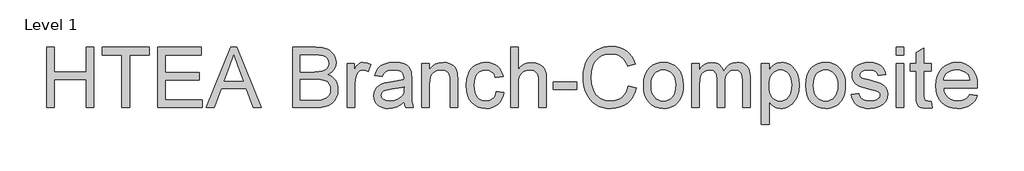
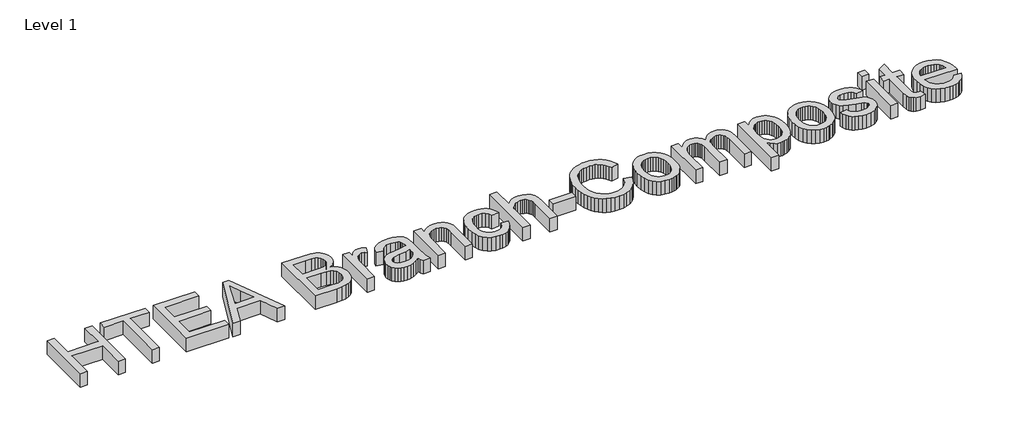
# One storey, part 6 of 29: 1 proxy.
"""IFC4 building model written with IfcOpenShell, lengths in millimetres."""

from ifc_helpers import new_model, si_unit, origin, origin_with_axes, place, context, project, spatial, polyline, outline, extrude, element, save

model = new_model("IFC4")

# Units and contexts
model_context = context("Model", 3, world=origin())
ifc_project = project(units=[si_unit("LENGTHUNIT", "METRE", prefix="MILLI")], contexts=[model_context])

# Site, building, storey
site = spatial("IfcSite", under=ifc_project)
building = spatial("IfcBuilding", under=site)
storey = spatial("IfcBuildingStorey", under=building, Name="Level 1", Elevation=0.0)

# Proxy
placement = place(None, origin())
element("IfcBuildingElementProxy", 1, Name="600mm Arial", ObjectType="600mm Arial", at=placement, inside=storey, context=model_context, shape_type="SweptSolid", body=[
    extrude(outline(polyline([(14722.2890563, -50096.4194431), (14722.2890563, -49493.6815822), (14797.6312889, -49493.6815822), (14797.6312889, -49738.5438382), (15117.8357775, -49738.5438382), (15117.8357775, -49493.6815822), (15193.1780101, -49493.6815822), (15193.1780101, -50096.4194431), (15117.8357775, -50096.4194431), (15117.8357775, -49813.8860708), (14797.6312889, -49813.8860708), (14797.6312889, -50096.4194431), (14722.2890563, -50096.4194431)])), origin_with_axes(), (0.0, 0.0, 1.0), 150.0),
    extrude(outline(polyline([(15475.7113824, -50096.4194431), (15475.7113824, -49569.0238148), (15277.9380218, -49569.0238148), (15277.9380218, -49493.6815822), (15748.8269757, -49493.6815822), (15748.8269757, -49569.0238148), (15551.053615, -49569.0238148), (15551.053615, -50096.4194431), (15475.7113824, -50096.4194431)])), origin_with_axes(), (0.0, 0.0, 1.0), 150.0),
    extrude(outline(polyline([(15833.5869873, -50096.4194431), (15833.5869873, -49493.6815822), (16266.8048249, -49493.6815822), (16266.8048249, -49569.0238148), (15908.92922, -49569.0238148), (15908.92922, -49747.9616173), (16247.9692667, -49747.9616173), (16247.9692667, -49823.3038499), (15908.92922, -49823.3038499), (15908.92922, -50021.0772105), (16276.2226039, -50021.0772105), (16276.2226039, -50096.4194431), (15833.5869873, -50096.4194431)])), origin_with_axes(), (0.0, 0.0, 1.0), 150.0),
    extrude(outline(polyline([(16319.0440682, -50096.4194431), (16559.638893, -49493.6815822), (16623.797513, -49493.6815822), (16864.3923378, -50096.4194431), (16784.7826741, -50096.4194431), (16715.7680118, -49908.0638616), (16467.5212414, -49908.0638616), (16398.6537319, -50096.4194431), (16319.0440682, -50096.4194431)]), holes=[polyline([(16495.1859675, -49832.721629), (16688.2504385, -49832.721629), (16633.951056, -49684.5387613), (16591.718203, -49569.0238148), (16554.1942395, -49671.5893151), (16495.1859675, -49832.721629)])]), origin_with_axes(), (0.0, 0.0, 1.0), 150.0),
    extrude(outline(polyline([(17180.3293953, -50096.4194431), (17180.3293953, -49493.6815822), (17410.3292187, -49493.6815822), (17473.5865277, -49498.1145603), (17522.9746856, -49511.4134944), (17543.0518455, -49521.4704684), (17560.8297429, -49533.9094784), (17576.3083778, -49548.7305243), (17589.4877503, -49565.9336061), (17607.5323622, -49603.6047224), (17613.5472328, -49643.0416723), (17608.4888554, -49679.3332311), (17593.3137231, -49713.4542862), (17567.9114713, -49743.3079101), (17532.1717355, -49766.7971755), (17554.9114413, -49776.490866), (17574.864441, -49789.0908244), (17592.0307346, -49804.5970505), (17606.4103221, -49823.0095443), (17617.7732772, -49843.7672859), (17625.8896737, -49866.3092552), (17630.7595117, -49890.6354521), (17632.382791, -49916.7458767), (17627.9498129, -49958.7763946), (17614.6508788, -49997.753492), (17594.8036451, -50030.8996598), (17570.7257686, -50055.4373889), (17541.2400267, -50073.2060892), (17505.169197, -50086.0451709), (17461.3360573, -50093.8258751), (17408.5633851, -50096.4194431), (17180.3293953, -50096.4194431)]), holes=[polyline([(17255.6716279, -50021.0772105), (17410.1820659, -50021.0772105), (17466.1001291, -50018.1341546), (17492.0542039, -50011.6042491), (17513.4097537, -50001.7266176), (17530.7737839, -49987.5815549), (17544.7532997, -49968.249356), (17553.9687437, -49944.5945437), (17557.0405583, -49917.4816407), (17553.4353148, -49885.9909419), (17542.6195841, -49858.914827), (17523.7288437, -49837.7432182), (17495.8985707, -49823.9660375), (17456.480015, -49816.4060625), (17402.824426, -49813.8860708), (17255.6716279, -49813.8860708), (17255.6716279, -50021.0772105)]), polyline([(17255.6716279, -49738.5438382), (17393.2594941, -49738.5438382), (17441.3784591, -49736.9251574), (17473.6049218, -49732.0691151), (17501.7295004, -49720.9038966), (17521.944616, -49704.1836599), (17534.1399041, -49682.1659225), (17538.2050002, -49655.1082017), (17534.4158156, -49628.8414273), (17523.048262, -49605.9591672), (17504.617374, -49588.0984963), (17479.6381866, -49576.8964895), (17441.3048827, -49570.9919835), (17382.8116454, -49569.0238148), (17255.6716279, -49569.0238148), (17255.6716279, -49738.5438382)])]), origin_with_axes(), (0.0, 0.0, 1.0), 150.0),
    extrude(outline(polyline([(17726.5605817, -50096.4194431), (17726.5605817, -49653.7838265), (17792.4850353, -49653.7838265), (17792.4850353, -49719.2668217), (17816.8388233, -49681.3013998), (17839.279625, -49658.9341745), (17861.7940031, -49648.0080792), (17886.3685204, -49644.3660475), (17923.8924839, -49650.178583), (17962.0050586, -49667.6161896), (17936.8419302, -49735.1593239), (17910.3544265, -49723.571041), (17883.8669229, -49719.7082801), (17861.3709389, -49723.4238882), (17841.2661878, -49734.5707127), (17825.0241977, -49752.3026248), (17814.1164966, -49775.7734961), (17804.9562349, -49817.8591964), (17801.9028143, -49863.7708694), (17801.9028143, -50096.4194431), (17726.5605817, -50096.4194431)])), origin_with_axes(), (0.0, 0.0, 1.0), 150.0),
    extrude(outline(polyline([(18291.6273263, -50039.9127687), (18255.6300731, -50070.7780681), (18218.5659621, -50090.9747896), (18179.5888647, -50102.1216141), (18137.8526523, -50105.8372222), (18104.3064129, -50103.6023391), (18074.8896489, -50096.8976897), (18049.6023602, -50085.7232741), (18028.444547, -50070.0790923), (18011.7381059, -50050.9584256), (17999.8049336, -50029.3545554), (17992.6450303, -50005.2674818), (17990.2583959, -49978.6972047), (17993.8636394, -49947.4640233), (18004.6793701, -49919.1003215), (18021.3628186, -49894.8201098), (18042.5712156, -49875.8373988), (18067.4952208, -49861.490001), (18095.3254937, -49851.1157288), (18160.5141832, -49839.7849633), (18237.548673, -49827.8655867), (18291.1858679, -49813.8860708), (18291.6273263, -49797.1106519), (18286.4401902, -49763.4862375), (18279.95627, -49751.033432), (18270.8787818, -49741.4868942), (18255.1886147, -49731.9587505), (18236.077145, -49725.1529336), (18187.5902981, -49719.7082801), (18142.7086947, -49723.3319177), (18111.3651487, -49734.2028307), (18089.9912048, -49754.3075817), (18075.0184076, -49785.6327336), (17999.6761749, -49776.2149545), (18012.7543799, -49735.0121711), (18032.2705197, -49702.6385555), (18060.0456103, -49677.8800972), (18097.9006677, -49659.5227857), (18144.1986167, -49648.155232), (18197.3023827, -49644.3660475), (18248.235645, -49647.7137736), (18288.610694, -49657.7569521), (18319.0529291, -49672.858508), (18340.1877497, -49691.3813664), (18354.2040537, -49714.2820206), (18363.290739, -49742.5169638), (18366.9695589, -49808.4414173), (18366.9695589, -49902.1777497), (18370.7955317, -50033.0701636), (18376.4609144, -50065.425385), (18385.8051171, -50096.4194431), (18310.4628845, -50096.4194431), (18298.396355, -50070.2262451), (18291.6273263, -50039.9127687)]), holes=[polyline([(18291.6273263, -49889.2283035), (18241.0067638, -49901.7730795), (18170.0791151, -49912.3312927), (18105.2583076, -49924.544975), (18088.3909181, -49932.8958963), (18075.9013243, -49944.4106027), (18068.1758024, -49958.2061775), (18065.6006285, -49973.3997039), (18071.2108289, -49995.8037175), (18088.0414302, -50014.161029), (18115.7245503, -50026.4114995), (18153.8923073, -50030.4949896), (18194.3593268, -50025.9884352), (18230.1174567, -50012.4687718), (18259.1065579, -49992.5479618), (18279.2664913, -49968.8379672), (18288.2060238, -49944.4106027), (18291.1858679, -49910.5654592), (18291.6273263, -49889.2283035)])]), origin_with_axes(), (0.0, 0.0, 1.0), 150.0),
    extrude(outline(polyline([(18470.5651288, -50096.4194431), (18470.5651288, -49653.7838265), (18545.9073614, -49653.7838265), (18545.9073614, -49715.5880017), (18572.0821653, -49684.4283967), (18603.5176818, -49662.171536), (18640.2139108, -49648.8174196), (18682.1708524, -49644.3660475), (18719.3085398, -49647.9528969), (18753.3192303, -49658.7134453), (18781.6829321, -49675.3049233), (18801.8796536, -49696.3845616), (18815.5832579, -49721.8971779), (18824.4676081, -49751.7875901), (18828.4407337, -49824.6282251), (18828.4407337, -50096.4194431), (18753.0985011, -50096.4194431), (18753.0985011, -49834.7817682), (18750.9279973, -49795.8230649), (18744.416486, -49768.1215506), (18732.4051388, -49748.274317), (18713.7351276, -49732.8784555), (18689.8044038, -49723.0008239), (18662.0109191, -49719.7082801), (18639.1332575, -49721.5568871), (18617.8834737, -49727.1027082), (18598.2615678, -49736.3457433), (18580.2675397, -49749.2859925), (18565.2349617, -49767.3949837), (18554.497406, -49792.1442449), (18548.0548725, -49823.5337762), (18545.9073614, -49861.5635774), (18545.9073614, -50096.4194431), (18470.5651288, -50096.4194431)])), origin_with_axes(), (0.0, 0.0, 1.0), 150.0),
    extrude(outline(polyline([(19214.5696758, -49936.3171988), (19289.9119084, -49945.7349779), (19281.717337, -49981.2861742), (19268.9058465, -50012.7446833), (19251.477437, -50040.1105052), (19229.4321084, -50063.38364), (19203.6987629, -50081.9570822), (19175.2063023, -50095.2238267), (19143.9547268, -50103.1838733), (19109.9440364, -50105.8372222), (19067.6881907, -50102.1354096), (19029.8009437, -50091.0299719), (18996.2822954, -50072.520909), (18967.1322459, -50046.608221), (18943.5372144, -50013.7793514), (18926.6836205, -49974.521744), (18916.5714641, -49928.8353988), (18913.2007454, -49876.7203156), (18918.9580986, -49809.673822), (18926.1547901, -49779.5028999), (18936.2301583, -49751.5668609), (18949.2531809, -49726.426725), (18965.2928359, -49704.6435124), (18984.3491232, -49686.2172229), (19006.4220429, -49671.1478567), (19030.5137151, -49659.4308152), (19055.6262598, -49651.0614998), (19081.759677, -49646.0399105), (19108.9139668, -49644.3660475), (19142.3406446, -49646.6653099), (19172.5759461, -49653.5630973), (19199.6198712, -49665.0594097), (19223.4724201, -49681.154247), (19243.7289225, -49701.4797272), (19259.9847081, -49725.6679684), (19272.2397771, -49753.7189705), (19280.4941293, -49785.6327336), (19205.1518967, -49795.0505127), (19191.4850806, -49762.1802564), (19170.2031072, -49738.6174146), (19142.4831989, -49724.4355637), (19109.502578, -49719.7082801), (19083.9025897, -49722.0351337), (19060.8133959, -49729.0156946), (19040.2349968, -49740.6499626), (19022.1673923, -49756.937938), (19007.4567111, -49778.2566996), (18996.9490816, -49804.9833266), (18990.6445039, -49837.1178188), (18988.542978, -49874.6601764), (18990.5985186, -49912.7681526), (18996.7651406, -49945.2751254), (19007.0428438, -49972.1810948), (19021.4316283, -49993.4860609), (19039.1405479, -50009.6774672), (19059.3786561, -50021.2427574), (19082.1459531, -50028.1819316), (19107.4424388, -50030.4949896), (19146.4563244, -50024.7192423), (19163.3283124, -50017.4995581), (19178.4436639, -50007.3920003), (19191.3793145, -49994.2862042), (19201.7122001, -49978.0718053), (19209.4423205, -49958.7488035), (19214.5696758, -49936.3171988)])), origin_with_axes(), (0.0, 0.0, 1.0), 150.0),
    extrude(outline(polyline([(19355.836362, -50096.4194431), (19355.836362, -49493.6815822), (19431.1785946, -49493.6815822), (19431.1785946, -49715.2936961), (19458.8525177, -49684.2628498), (19489.9293492, -49662.0979596), (19524.4090892, -49648.7990255), (19562.2917377, -49644.3660475), (19607.7987405, -49649.2036957), (19646.9045965, -49663.7166404), (19677.6963195, -49686.7644474), (19698.2609231, -49717.2066825), (19709.8492059, -49759.0348654), (19713.7119669, -49816.2405156), (19713.7119669, -50096.4194431), (19638.3697343, -50096.4194431), (19638.3697343, -49824.0396139), (19636.8706151, -49798.6005739), (19632.3732577, -49776.8771421), (19624.8776621, -49758.8693185), (19614.3838282, -49744.5771029), (19601.1400763, -49733.6969929), (19585.394727, -49725.9254858), (19567.14778, -49721.2625815), (19546.3992355, -49719.7082801), (19514.5590488, -49723.9021348), (19484.6686367, -49736.4836991), (19459.9101784, -49756.2389622), (19443.4658532, -49781.9539137), (19434.2504092, -49816.130151), (19431.1785946, -49861.2692718), (19431.1785946, -50096.4194431), (19355.836362, -50096.4194431)])), origin_with_axes(), (0.0, 0.0, 1.0), 150.0),
    extrude(outline(polyline([(19779.6364204, -49917.4816407), (19779.6364204, -49842.1394081), (20015.0808973, -49842.1394081), (20015.0808973, -49917.4816407), (19779.6364204, -49917.4816407)])), origin_with_axes(), (0.0, 0.0, 1.0), 150.0),
    extrude(outline(polyline([(20533.0587465, -49882.1649691), (20608.4009791, -49901.5891385), (20593.4925613, -49948.4435091), (20573.6361306, -49989.3841766), (20548.8316871, -50024.4111411), (20519.0792307, -50053.5244025), (20485.0501462, -50076.4112611), (20447.415818, -50092.7590173), (20406.1762464, -50102.567671), (20361.3314312, -50105.8372222), (20315.3875685, -50103.3632158), (20273.9410632, -50095.9411965), (20236.9919153, -50083.5711645), (20204.5401248, -50066.2531195), (20176.1396348, -50044.2445792), (20151.3443883, -50017.8030608), (20130.1543854, -49986.9285643), (20112.569626, -49951.6210898), (20098.7602556, -49913.4073476), (20088.8964196, -49873.8140479), (20082.9781181, -49832.8411906), (20081.0053509, -49790.4887759), (20083.2356354, -49745.0461525), (20089.9264892, -49702.6017673), (20101.0779122, -49663.1556204), (20116.6899044, -49626.7077117), (20136.4129779, -49593.860448), (20159.8976447, -49565.2162362), (20187.143905, -49540.7750761), (20218.1517587, -49520.5369679), (20251.8681435, -49504.6674583), (20287.2399973, -49493.3320943), (20324.2673202, -49486.530876), (20362.950112, -49484.2638032), (20406.0428892, -49487.1976621), (20445.558014, -49495.9992388), (20481.4954864, -49510.6685334), (20513.8553064, -49531.2055457), (20542.1040451, -49557.06765), (20565.7082736, -49587.7122202), (20584.6679919, -49623.1392563), (20598.9832001, -49663.3487584), (20523.6409674, -49681.3013998), (20511.7767731, -49651.6731036), (20497.5213458, -49626.3582238), (20480.8746855, -49605.3567604), (20461.8367923, -49588.6687134), (20440.2973014, -49575.9537919), (20416.1458485, -49566.8717052), (20389.3824333, -49561.4224531), (20360.007056, -49559.6060358), (20326.2078977, -49561.6201897), (20295.296613, -49567.6626515), (20267.2732021, -49577.7334211), (20242.1376647, -49591.8324986), (20220.2072993, -49609.3252874), (20201.799404, -49629.5771913), (20186.9139787, -49652.5882101), (20175.5510236, -49678.3583438), (20161.1484435, -49733.5038549), (20156.3475835, -49790.3416231), (20162.0313603, -49859.9448966), (20169.1360813, -49891.2148662), (20179.0826908, -49920.130391), (20192.032137, -49946.1166555), (20208.1453684, -49968.5988439), (20227.4223849, -49987.5769563), (20249.8631866, -50003.0509928), (20274.3779231, -50015.0577414), (20299.8767439, -50023.6339904), (20326.359649, -50028.7797398), (20353.8266385, -50030.4949896), (20386.5819316, -50028.1589389), (20416.7160656, -50021.1507869), (20444.2290403, -50009.4705336), (20469.1208558, -49993.1181789), (20490.8029009, -49972.1672993), (20508.6865643, -49946.6914711), (20522.7718462, -49916.6906944), (20533.0587465, -49882.1649691)])), origin_with_axes(), (0.0, 0.0, 1.0), 150.0),
    extrude(outline(polyline([(20683.7432118, -49875.1016348), (20687.8175048, -49817.7764229), (20700.0403841, -49768.379068), (20720.4118496, -49726.9095701), (20748.9319013, -49693.3679292), (20777.645091, -49671.9296059), (20809.3381249, -49656.6165179), (20844.0110029, -49647.4286651), (20881.6637252, -49644.3660475), (20923.2297921, -49648.0954512), (20960.8135364, -49659.2836624), (20994.4149582, -49677.930681), (21024.0340573, -49704.0365071), (21048.2085029, -49736.7182238), (21065.475964, -49775.0929144), (21075.8364407, -49819.1605789), (21079.289933, -49868.9212173), (21077.7632227, -49909.250281), (21073.1830918, -49945.0360021), (21065.5495404, -49976.2783806), (21054.8625685, -50002.9774164), (21041.2555332, -50026.0390189), (21024.8617918, -50046.3690977), (21005.6813443, -50063.9676526), (20983.7141906, -50078.8346838), (20959.8156565, -50090.6482943), (20934.8410676, -50099.0865876), (20908.7904238, -50104.1495636), (20881.6637252, -50105.8372222), (20839.4906529, -50102.1216141), (20801.5574207, -50090.9747896), (20767.8640285, -50072.3967488), (20738.4104762, -50046.3874918), (20714.493548, -50013.3884768), (20697.4100279, -49973.8411623), (20687.1599158, -49927.7455483), (20683.7432118, -49875.1016348)]), holes=[polyline([(20759.0854444, -49874.954482), (20761.2651452, -49911.4989597), (20767.8042476, -49943.1414098), (20778.7027518, -49969.8818324), (20793.9606575, -49991.7202273), (20812.5203042, -50008.6841858), (20833.324031, -50020.801299), (20856.371838, -50028.071567), (20881.6637252, -50030.4949896), (20906.8268536, -50028.0577714), (20929.7826901, -50020.7461167), (20950.5312347, -50008.5600256), (20969.0724872, -49991.4994981), (20984.330393, -49969.4449725), (20995.2288971, -49942.2768872), (21001.7679995, -49909.9952421), (21003.9477004, -49872.6000373), (21001.754204, -49837.2143879), (20995.1737148, -49806.3996722), (20984.2062328, -49780.1558904), (20968.851758, -49758.4830424), (20950.2415276, -49741.5190839), (20929.5067786, -49729.4019706), (20906.6475112, -49722.1317027), (20881.6637252, -49719.7082801), (20856.371838, -49722.1225057), (20833.324031, -49729.3651824), (20812.5203042, -49741.4363104), (20793.9606575, -49758.3358896), (20778.7027518, -49780.1099052), (20767.8042476, -49806.8043424), (20761.2651452, -49838.4192014), (20759.0854444, -49874.954482)])]), origin_with_axes(), (0.0, 0.0, 1.0), 150.0),
    extrude(outline(polyline([(21164.0499447, -50096.4194431), (21164.0499447, -49653.7838265), (21239.3921773, -49653.7838265), (21239.3921773, -49726.6244616), (21262.0537082, -49693.1655941), (21291.1899622, -49666.954002), (21325.8076579, -49650.0130361), (21364.913514, -49644.3660475), (21406.8152733, -49650.1234007), (21424.648353, -49657.3200922), (21440.4028994, -49667.3954604), (21465.4924515, -49695.0417923), (21481.8999885, -49731.9219623), (21509.3623794, -49693.6162496), (21540.6875313, -49666.2550262), (21575.8754442, -49649.8382921), (21614.9261179, -49644.3660475), (21645.087843, -49646.6423173), (21671.5615511, -49653.4711268), (21694.3472422, -49664.8524761), (21713.4449163, -49680.786365), (21728.5418736, -49701.4567346), (21739.3254146, -49727.0475259), (21745.7955392, -49757.5587389), (21747.9522474, -49792.9903735), (21747.9522474, -50096.4194431), (21672.6100148, -50096.4194431), (21672.6100148, -49825.3639891), (21670.8625753, -49787.7848433), (21665.6202569, -49762.4561679), (21655.7978076, -49745.1105318), (21640.3099756, -49731.4805039), (21620.3891656, -49722.651336), (21597.2677822, -49719.7082801), (21575.9168309, -49721.5936753), (21556.4512748, -49727.249861), (21538.871114, -49736.6768371), (21523.1763483, -49749.8746037), (21510.2682888, -49767.2294368), (21501.0482463, -49789.1276126), (21495.5162208, -49815.569131), (21493.6722123, -49846.553992), (21493.6722123, -50096.4194431), (21418.3299797, -50096.4194431), (21418.3299797, -49816.9762796), (21413.9705781, -49774.3755446), (21408.521326, -49757.6553079), (21400.8923731, -49743.9884918), (21390.7802168, -49733.3658991), (21377.8813543, -49725.778333), (21362.1957858, -49721.2257933), (21343.7235111, -49719.7082801), (21314.6976217, -49723.754982), (21287.9526006, -49735.8950879), (21265.8796809, -49755.834292), (21250.8700955, -49783.2782888), (21242.2616568, -49821.3540753), (21239.3921773, -49873.1886485), (21239.3921773, -50096.4194431), (21164.0499447, -50096.4194431)])), origin_with_axes(), (0.0, 0.0, 1.0), 150.0),
    extrude(outline(polyline([(21860.9655963, -50265.9394665), (21860.9655963, -49653.7838265), (21936.3078289, -49653.7838265), (21936.3078289, -49727.6545312), (21960.8823462, -49691.2158195), (21988.3999194, -49665.1881684), (22020.4792294, -49649.5715777), (22058.7389569, -49644.3660475), (22085.0149284, -49646.1870633), (22109.6906133, -49651.650111), (22132.7660114, -49660.7551903), (22154.2411229, -49673.5023015), (22173.6468981, -49689.5603506), (22190.5142876, -49708.5982438), (22204.8432913, -49730.6159812), (22216.6339093, -49755.6135628), (22232.4160468, -49811.1269559), (22237.6767594, -49871.7171205), (22231.7354652, -49936.1516519), (22224.3088474, -49965.8167363), (22213.9115825, -49993.7803665), (22200.6862248, -50019.3113769), (22184.7753285, -50041.6786023), (22166.1788936, -50060.8820424), (22144.8969202, -50076.9216974), (22121.9732734, -50089.5722395), (22098.4518183, -50098.608341), (22074.332555, -50104.0300019), (22049.6154834, -50105.8372222), (22014.9793936, -50100.999574), (21984.0589119, -50086.4866293), (21957.5898023, -50064.5792565), (21936.3078289, -50037.5583239), (21936.3078289, -50265.9394665), (21860.9655963, -50265.9394665)]), holes=[polyline([(21936.3078289, -49878.633302), (21938.3449755, -49914.9432549), (21944.4564151, -49946.1764363), (21954.6421479, -49972.3328462), (21968.9021737, -49993.4124845), (21986.0684673, -50009.6360805), (22004.9730033, -50021.2243633), (22025.6157818, -50028.177333), (22047.9968027, -50030.4949896), (22070.6997203, -50028.0945596), (22091.7195778, -50020.8932695), (22111.0563752, -50008.8911194), (22128.7101124, -49992.0881093), (22143.4207937, -49970.2451158), (22153.9284232, -49943.1230157), (22160.2330009, -49910.721809), (22162.3345268, -49873.0414957), (22160.2835846, -49837.0442424), (22154.1307583, -49805.8662433), (22143.8760477, -49779.5074984), (22129.5194528, -49757.9680076), (22112.3117725, -49741.2293768), (22093.5038055, -49729.2732119), (22073.0955518, -49722.099513), (22051.0870114, -49719.7082801), (22029.1474489, -49722.2512644), (22008.5046705, -49729.8802172), (21989.1586761, -49742.5951387), (21971.1094657, -49760.3960287), (21955.8837496, -49783.0437641), (21945.0082381, -49810.2992214), (21938.4829312, -49842.1624007), (21936.3078289, -49878.633302)])]), origin_with_axes(), (0.0, 0.0, 1.0), 150.0),
    extrude(outline(polyline([(22303.6012129, -49875.1016348), (22307.675506, -49817.7764229), (22319.8983853, -49768.379068), (22340.2698508, -49726.9095701), (22368.7899025, -49693.3679292), (22397.5030922, -49671.9296059), (22429.1961261, -49656.6165179), (22463.8690041, -49647.4286651), (22501.5217263, -49644.3660475), (22543.0877932, -49648.0954512), (22580.6715376, -49659.2836624), (22614.2729593, -49677.930681), (22643.8920585, -49704.0365071), (22668.0665041, -49736.7182238), (22685.3339652, -49775.0929144), (22695.6944419, -49819.1605789), (22699.1479341, -49868.9212173), (22697.6212238, -49909.250281), (22693.041093, -49945.0360021), (22685.4075416, -49976.2783806), (22674.7205696, -50002.9774164), (22661.1135344, -50026.0390189), (22644.7197929, -50046.3690977), (22625.5393454, -50063.9676526), (22603.5721918, -50078.8346838), (22579.6736577, -50090.6482943), (22554.6990687, -50099.0865876), (22528.6484249, -50104.1495636), (22501.5217263, -50105.8372222), (22459.3486541, -50102.1216141), (22421.4154219, -50090.9747896), (22387.7220296, -50072.3967488), (22358.2684774, -50046.3874918), (22334.3515492, -50013.3884768), (22317.268029, -49973.8411623), (22307.0179169, -49927.7455483), (22303.6012129, -49875.1016348)]), holes=[polyline([(22378.9434455, -49874.954482), (22381.1231463, -49911.4989597), (22387.6622488, -49943.1414098), (22398.5607529, -49969.8818324), (22413.8186587, -49991.7202273), (22432.3783053, -50008.6841858), (22453.1820322, -50020.801299), (22476.2298391, -50028.071567), (22501.5217263, -50030.4949896), (22526.6848548, -50028.0577714), (22549.6406913, -50020.7461167), (22570.3892358, -50008.5600256), (22588.9304884, -49991.4994981), (22604.1883941, -49969.4449725), (22615.0868982, -49942.2768872), (22621.6260007, -49909.9952421), (22623.8057015, -49872.6000373), (22621.6122051, -49837.2143879), (22615.0317159, -49806.3996722), (22604.0642339, -49780.1558904), (22588.7097592, -49758.4830424), (22570.0995287, -49741.5190839), (22549.3647798, -49729.4019706), (22526.5055123, -49722.1317027), (22501.5217263, -49719.7082801), (22476.2298391, -49722.1225057), (22453.1820322, -49729.3651824), (22432.3783053, -49741.4363104), (22413.8186587, -49758.3358896), (22398.5607529, -49780.1099052), (22387.6622488, -49806.8043424), (22381.1231463, -49838.4192014), (22378.9434455, -49874.954482)])]), origin_with_axes(), (0.0, 0.0, 1.0), 150.0),
    extrude(outline(polyline([(22755.6546086, -49964.5705361), (22830.9968412, -49955.152757), (22835.5493809, -49972.3328462), (22842.8794296, -49987.3792198), (22852.9869875, -50000.2918778), (22865.8720543, -50011.0708203), (22881.5714185, -50019.5688943), (22900.1218681, -50025.6389473), (22945.7760237, -50030.4949896), (22990.8783563, -50026.0436175), (23008.4079334, -50020.4794023), (23022.5897843, -50012.689501), (23041.351766, -49993.3389081), (23046.0422615, -49982.5047833), (23047.60576, -49970.8981064), (23046.0330644, -49960.7261692), (23041.3149778, -49951.6946662), (23022.4426315, -49937.0529628), (22994.2260825, -49927.4880309), (22944.8931069, -49915.5686543), (22876.135962, -49895.6846325), (22831.4382996, -49878.7068784), (22802.7251099, -49860.1840199), (22781.921383, -49835.664685), (22769.2846365, -49806.7123719), (22765.0723877, -49774.8905794), (22768.456902, -49745.699143), (22778.6104451, -49718.7517869), (22794.6133119, -49695.1153687), (22815.5457974, -49675.8567462), (22836.3495242, -49663.7350345), (22863.4440332, -49653.5630973), (22894.7691851, -49646.6653099), (22928.2648407, -49644.3660475), (22977.3035107, -49648.0632615), (23019.9410339, -49659.1549037), (23054.2276359, -49676.555722), (23078.213542, -49699.1804647), (23094.1060441, -49728.7029949), (23104.1124344, -49766.7971755), (23028.7702018, -49776.2149545), (23019.2604522, -49752.5049599), (23000.4432882, -49734.6442891), (22972.1347686, -49723.4422823), (22934.1509526, -49719.7082801), (22890.88803, -49723.2767354), (22862.0460816, -49733.9821015), (22845.8224856, -49749.4331453), (22840.4146203, -49767.2386339), (22842.6587004, -49778.8269167), (22849.390941, -49789.1644008), (22860.9056474, -49798.3982388), (22877.4971254, -49805.7926669), (22942.3915093, -49821.8323219), (23052.9768371, -49857.2961463), (23082.1866675, -49874.2555062), (23104.3331636, -49897.4688601), (23118.2942853, -49927.0097844), (23122.9479926, -49962.9518553), (23117.4849449, -50000.1079368), (23101.0958021, -50035.0567263), (23074.4059633, -50065.057503), (23038.0408281, -50087.3695461), (22994.1157179, -50101.2203032), (22944.7459541, -50105.8372222), (22904.1961612, -50103.6115361), (22868.7783221, -50096.9344779), (22838.4924368, -50085.8060476), (22813.3385054, -50070.2262451), (22792.792296, -50050.2686468), (22776.3295767, -50026.0068293), (22763.9503476, -49997.4407923), (22755.6546086, -49964.5705361)])), origin_with_axes(), (0.0, 0.0, 1.0), 150.0),
    extrude(outline(polyline([(23207.7080043, -50096.4194431), (23207.7080043, -49653.7838265), (23283.0502369, -49653.7838265), (23283.0502369, -50096.4194431), (23207.7080043, -50096.4194431)])), origin_with_axes(), (0.0, 0.0, 1.0), 150.0),
    extrude(outline(polyline([(23207.7080043, -49569.0238148), (23207.7080043, -49493.6815822), (23283.0502369, -49493.6815822), (23283.0502369, -49569.0238148), (23207.7080043, -49569.0238148)])), origin_with_axes(), (0.0, 0.0, 1.0), 150.0),
    extrude(outline(polyline([(23556.1658301, -50033.5851984), (23565.5836092, -50098.6267351), (23509.2240875, -50105.8372222), (23473.0612874, -50102.7102253), (23446.0955371, -50093.3292344), (23427.0392498, -50078.871472), (23414.6048383, -50060.5141604), (23407.7622332, -50028.9866734), (23405.4813649, -49975.0183847), (23405.4813649, -49729.1260592), (23348.9746904, -49729.1260592), (23348.9746904, -49653.7838265), (23405.4813649, -49653.7838265), (23405.4813649, -49546.2151311), (23480.8235975, -49501.9221389), (23480.8235975, -49653.7838265), (23556.1658301, -49653.7838265), (23556.1658301, -49729.1260592), (23480.8235975, -49729.1260592), (23480.8235975, -49972.8110928), (23484.796723, -50011.6594314), (23497.6725929, -50025.4182181), (23508.5435058, -50029.2257967), (23523.3507561, -50030.4949896), (23556.1658301, -50033.5851984)])), origin_with_axes(), (0.0, 0.0, 1.0), 150.0),
    extrude(outline(polyline([(23941.4118554, -49964.5705361), (24015.2825601, -49973.9883151), (24003.9563931, -50003.5752246), (23988.6662977, -50029.648861), (23969.4122738, -50052.2092244), (23946.1943214, -50071.2563147), (23919.2515638, -50086.3854617), (23888.8231242, -50097.1919953), (23854.9090028, -50103.6759155), (23817.5091995, -50105.8372222), (23770.7605949, -50102.1078185), (23729.107156, -50090.9196073), (23692.5488828, -50072.2725887), (23661.0857751, -50046.1667626), (23635.7846909, -50013.328696), (23617.7124879, -49974.4849558), (23606.8691661, -49929.6355421), (23603.2547255, -49878.7804548), (23606.9059543, -49826.2009206), (23617.8596407, -49779.8569863), (23636.1157847, -49739.7486518), (23661.6743863, -49705.8759171), (23693.0547205, -49678.9653491), (23728.7760622, -49659.7435149), (23768.8384115, -49648.2104143), (23813.2417683, -49644.3660475), (23856.2149839, -49648.2012173), (23895.0771181, -49659.7067267), (23929.8281711, -49678.8825757), (23960.4681428, -49705.7287643), (23985.4795199, -49739.5279226), (24003.3447893, -49779.5626807), (24014.063951, -49825.8330386), (24017.6370048, -49878.3389964), (24017.1955464, -49898.6460825), (23678.5969581, -49898.6460825), (23682.9609583, -49928.7112386), (23691.6383748, -49955.0423924), (23704.6292078, -49977.6395439), (23721.9334571, -49996.5026932), (23742.5946297, -50011.3743229), (23765.6562322, -50021.9969155), (23791.1182648, -50028.3704711), (23818.9807274, -50030.4949896), (23859.0798649, -50026.5586523), (23892.8514321, -50014.7496402), (23920.2954289, -49994.3321895), (23941.4118554, -49964.5705361)]), holes=[polyline([(23678.5969581, -49823.3038499), (23942.2947722, -49823.3038499), (23932.104441, -49783.499018), (23923.3396524, -49767.8456391), (23912.1284486, -49755.0249516), (23891.5822392, -49739.5739078), (23868.2033384, -49728.537448), (23841.9917462, -49721.915572), (23812.9474627, -49719.7082801), (23786.4553605, -49721.4695151), (23762.1613533, -49726.7532203), (23740.065441, -49735.5593955), (23720.1676235, -49747.8880409), (23703.4703795, -49763.1689393), (23690.9761872, -49780.8318736), (23682.6850468, -49800.8768438), (23678.5969581, -49823.3038499)])]), origin_with_axes(), (0.0, 0.0, 1.0), 150.0),
])

save(model, "model.ifc")
